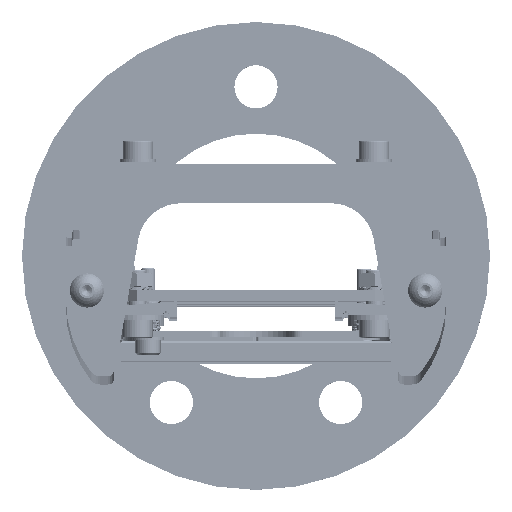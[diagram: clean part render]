
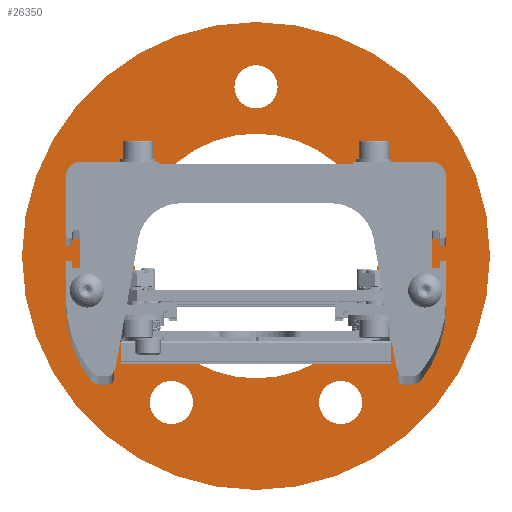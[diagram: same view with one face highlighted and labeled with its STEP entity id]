
A CAD part, top view. The second image highlights one B-rep face of the part: STEP entity #26350.
In plain terms, the highlighted planar face has unit normal (0, 0, 1).
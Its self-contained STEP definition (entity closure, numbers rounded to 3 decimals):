
#13820=FACE_BOUND('',#46603,.T.);
#13821=FACE_BOUND('',#46604,.T.);
#13822=FACE_BOUND('',#46605,.T.);
#13823=FACE_BOUND('',#46606,.T.);
#13824=FACE_BOUND('',#46607,.T.);
#13825=FACE_BOUND('',#46608,.T.);
#13826=FACE_BOUND('',#46609,.T.);
#19029=CIRCLE('',#155318,6.);
#19030=CIRCLE('',#155319,6.);
#19031=CIRCLE('',#155320,6.);
#19032=CIRCLE('',#155321,34.);
#19033=CIRCLE('',#155322,3.6);
#19034=CIRCLE('',#155323,3.6);
#19035=CIRCLE('',#155324,65.);
#26350=ADVANCED_FACE('',(#13820,#13821,#13822,#13823,#13824,#13825,#13826),
#31876,.T.);
#31876=PLANE('',#155325);
#46603=EDGE_LOOP('',(#75463));
#46604=EDGE_LOOP('',(#75464));
#46605=EDGE_LOOP('',(#75465));
#46606=EDGE_LOOP('',(#75466));
#46607=EDGE_LOOP('',(#75467));
#46608=EDGE_LOOP('',(#75468));
#46609=EDGE_LOOP('',(#75469));
#75463=ORIENTED_EDGE('',*,*,#116753,.F.);
#75464=ORIENTED_EDGE('',*,*,#116754,.F.);
#75465=ORIENTED_EDGE('',*,*,#116755,.F.);
#75466=ORIENTED_EDGE('',*,*,#116756,.T.);
#75467=ORIENTED_EDGE('',*,*,#116757,.T.);
#75468=ORIENTED_EDGE('',*,*,#116758,.T.);
#75469=ORIENTED_EDGE('',*,*,#116759,.F.);
#99013=VERTEX_POINT('',#288983);
#99014=VERTEX_POINT('',#288985);
#99015=VERTEX_POINT('',#288987);
#99016=VERTEX_POINT('',#288989);
#99017=VERTEX_POINT('',#288991);
#99018=VERTEX_POINT('',#288993);
#99019=VERTEX_POINT('',#288995);
#116753=EDGE_CURVE('',#99013,#99013,#19029,.T.);
#116754=EDGE_CURVE('',#99014,#99014,#19030,.T.);
#116755=EDGE_CURVE('',#99015,#99015,#19031,.T.);
#116756=EDGE_CURVE('',#99016,#99016,#19032,.T.);
#116757=EDGE_CURVE('',#99017,#99017,#19033,.T.);
#116758=EDGE_CURVE('',#99018,#99018,#19034,.T.);
#116759=EDGE_CURVE('',#99019,#99019,#19035,.T.);
#155318=AXIS2_PLACEMENT_3D('',#288982,#189314,#189315);
#155319=AXIS2_PLACEMENT_3D('',#288984,#189316,#189317);
#155320=AXIS2_PLACEMENT_3D('',#288986,#189318,#189319);
#155321=AXIS2_PLACEMENT_3D('',#288988,#189320,#189321);
#155322=AXIS2_PLACEMENT_3D('',#288990,#189322,#189323);
#155323=AXIS2_PLACEMENT_3D('',#288992,#189324,#189325);
#155324=AXIS2_PLACEMENT_3D('',#288994,#189326,#189327);
#155325=AXIS2_PLACEMENT_3D('',#288996,#189328,#189329);
#189314=DIRECTION('',(0.,0.,1.));
#189315=DIRECTION('',(-1.,0.,0.));
#189316=DIRECTION('',(0.,0.,1.));
#189317=DIRECTION('',(-1.,0.,0.));
#189318=DIRECTION('',(0.,0.,1.));
#189319=DIRECTION('',(-1.,0.,0.));
#189320=DIRECTION('',(0.,0.,-1.));
#189321=DIRECTION('',(-1.,0.,0.));
#189322=DIRECTION('',(0.,0.,-1.));
#189323=DIRECTION('',(1.,0.,0.));
#189324=DIRECTION('',(0.,0.,-1.));
#189325=DIRECTION('',(1.,0.,0.));
#189326=DIRECTION('',(0.,0.,-1.));
#189327=DIRECTION('',(-1.,0.,0.));
#189328=DIRECTION('',(0.,0.,1.));
#189329=DIRECTION('',(-1.,0.,0.));
#288982=CARTESIAN_POINT('',(293.846,-100.913,-285.));
#288983=CARTESIAN_POINT('',(287.846,-100.913,-285.));
#288984=CARTESIAN_POINT('',(317.346,-13.21,-285.));
#288985=CARTESIAN_POINT('',(311.346,-13.21,-285.));
#288986=CARTESIAN_POINT('',(340.846,-100.913,-285.));
#288987=CARTESIAN_POINT('',(334.846,-100.913,-285.));
#288988=CARTESIAN_POINT('',(317.346,-60.21,-285.));
#288989=CARTESIAN_POINT('',(283.346,-60.21,-285.));
#288990=CARTESIAN_POINT('',(364.346,-72.21,-285.));
#288991=CARTESIAN_POINT('',(367.946,-72.21,-285.));
#288992=CARTESIAN_POINT('',(270.346,-72.21,-285.));
#288993=CARTESIAN_POINT('',(273.946,-72.21,-285.));
#288994=CARTESIAN_POINT('',(317.346,-60.21,-285.));
#288995=CARTESIAN_POINT('',(252.346,-60.21,-285.));
#288996=CARTESIAN_POINT('',(252.346,-60.21,-285.));
